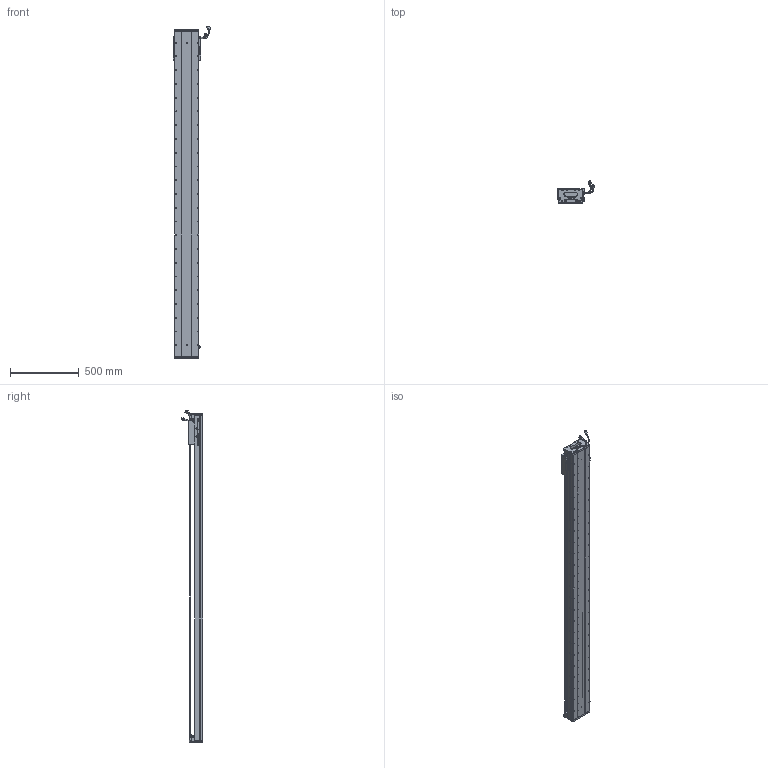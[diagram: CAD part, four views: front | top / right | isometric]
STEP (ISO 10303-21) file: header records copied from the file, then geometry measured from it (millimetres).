
FILE_DESCRIPTION (( 'STEP AP203' ), '1' );
FILE_NAME ('Z2-RY170D-1-L500-B-K.SLDASM_2100.step', '2021-05-17T09:09:53', ( '盈信电脑' ), ( '东莞市道滘镇水果街19号' ), 'SwSTEP 2.0', 'SolidWorks 2016', '' );
FILE_SCHEMA (( 'CONFIG_CONTROL_DESIGN' ));
Length unit declared in the file: millimetre
Products named in the file (36): Z2-RY170-L500詩湍145mm遵_2100; 榋妏寠巭燃_暯_M2_2; SCALE; SCREW-M1.6-2; SCALE-Part-1; 140蚥薯蝶輸; HARNESS; 080黍杅芛假蚾釱21遴; Z2-RY170D-1-L500-B-K.SLDASM_2100; SHIELDPLATE; LABEL; LABEL-Part-1; SCALE-Part-2; SCREW-M1.6-3; SCREW-M1.6; 140雄赽晤鎢ん堤盄; Z2-RY170-L500耀郪菁釱_2100; SCREW-M1.6-1; SCREW-M1.7-1; COVER-Part-1; HARNESS-Part-2; 覜茼ん672; HARNESS-Part-1; SEAL; Z2-RY170臏賑輸(21遴); Z-170詩湍傷裔啣; RY170直线电机感应器672光电感应片; Z-RY170詩湍奻揤裔; COVER; SEAL-Part-1; Z-RY170詩湍狟揤裔; PBU_SHEET; PSLH080_PSLF2; SCREW-M1.7; 170-Z-臏賑輸盄裔(21遴); HOLDER0
Assembly tree (41 placements, depth 4):
  Z2-RY170D-1-L500-B-K.SLDASM_2100
    Z2-RY170-L500耀郪菁釱_2100
    RY170直线电机感应器672光电感应片
    Z2-RY170臏賑輸(21遴)
    覜茼ん672  x3
    PSLH080_PSLF2
      SCALE
        SCALE-Part-1
        SCALE-Part-2
      HARNESS
        HARNESS-Part-1
        HARNESS-Part-2
      LABEL
        LABEL-Part-1
      COVER
        COVER-Part-1
      SEAL
        SEAL-Part-1
      榋妏寠巭燃_暯_M2_2
      SHIELDPLATE
      SCREW-M1.7
      SCREW-M1.7-1
      PBU_SHEET
      SCREW-M1.6
      SCREW-M1.6-1
      SCREW-M1.6-2
      SCREW-M1.6-3
      HOLDER0
    080黍杅芛假蚾釱21遴
    Z2-RY170-L500詩湍145mm遵_2100
    Z-170詩湍傷裔啣  x2
    Z-RY170詩湍奻揤裔  x2
    Z-RY170詩湍狟揤裔  x2
    140蚥薯蝶輸  x2
    170-Z-臏賑輸盄裔(21遴)
    140雄赽晤鎢ん堤盄
Bounding box: 275.34 x 158.11 x 2413.72 mm (x, y, z)
Volume: 11916360.4 mm3; surface area: 2949110 mm2
Topology: 36 solids, 36 shells, 3888 faces, 10735 edges, 6711 vertices
Faces by surface type: cylinder 1934, plane 1288, cone 544, torus 69, bspline 53
Entity records: 121415 total; most frequent: CARTESIAN_POINT 33640, ORIENTED_EDGE 17986, DIRECTION 16865, EDGE_CURVE 8993, AXIS2_PLACEMENT_3D 6210, VERTEX_POINT 5829, VECTOR 4445, LINE 4445
